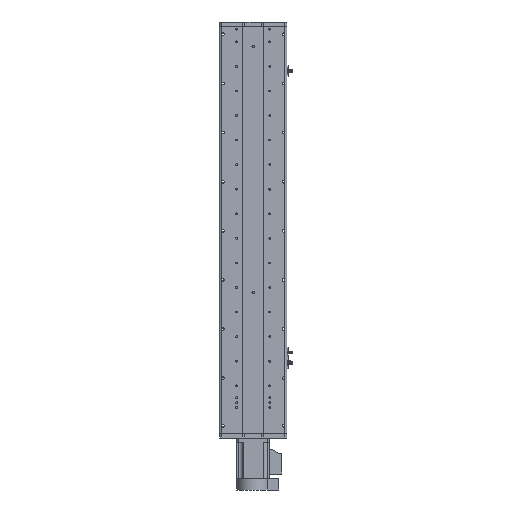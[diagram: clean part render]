
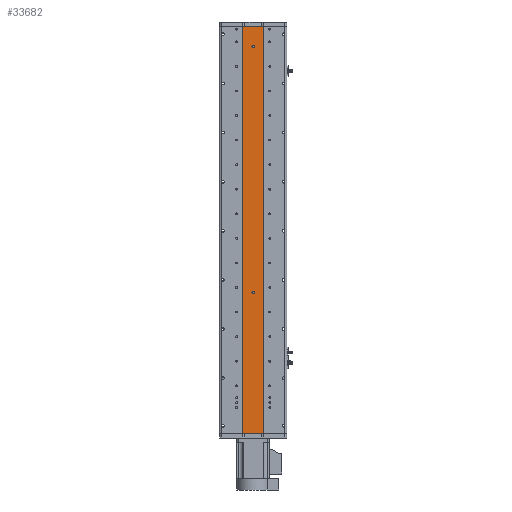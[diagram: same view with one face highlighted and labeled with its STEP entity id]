
A CAD part, front view. The second image highlights one B-rep face of the part: STEP entity #33682.
In plain terms, the highlighted planar face has unit normal (0, -1, 0).
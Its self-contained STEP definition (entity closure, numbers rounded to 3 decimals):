
#184 = CARTESIAN_POINT ( 'NONE',  ( -25., 1., 498. ) ) ;
#1045 = CARTESIAN_POINT ( 'NONE',  ( 25., 1., 498. ) ) ;
#1067 = ORIENTED_EDGE ( 'NONE', *, *, #21082, .F. ) ;
#1911 = VERTEX_POINT ( 'NONE', #25260 ) ;
#1976 = AXIS2_PLACEMENT_3D ( 'NONE', #17639, #39008, #20683 ) ;
#2047 = PLANE ( 'NONE',  #18568 ) ;
#2067 = VECTOR ( 'NONE', #24648, 1000. ) ;
#4239 = VERTEX_POINT ( 'NONE', #17119 ) ;
#4313 = EDGE_CURVE ( 'NONE', #1911, #13286, #5124, .T. ) ;
#4326 = DIRECTION ( 'NONE',  ( 0., 0., -1. ) ) ;
#5124 = CIRCLE ( 'NONE', #1976, 3. ) ;
#6332 = ORIENTED_EDGE ( 'NONE', *, *, #7380, .F. ) ;
#6644 = FACE_OUTER_BOUND ( 'NONE', #28078, .T. ) ;
#7283 = EDGE_LOOP ( 'NONE', ( #1067, #6332 ) ) ;
#7380 = EDGE_CURVE ( 'NONE', #25583, #4239, #15480, .T. ) ;
#7727 = CARTESIAN_POINT ( 'NONE',  ( 0., 1., -152. ) ) ;
#8055 = CARTESIAN_POINT ( 'NONE',  ( 25., 1., 498. ) ) ;
#8092 = LINE ( 'NONE', #33711, #23407 ) ;
#8183 = DIRECTION ( 'NONE',  ( 0., 1., 0. ) ) ;
#8955 = VERTEX_POINT ( 'NONE', #21980 ) ;
#9056 = ORIENTED_EDGE ( 'NONE', *, *, #33904, .T. ) ;
#10452 = VECTOR ( 'NONE', #31656, 1000. ) ;
#10824 = DIRECTION ( 'NONE',  ( 0., 0., -1. ) ) ;
#11270 = VECTOR ( 'NONE', #4326, 1000. ) ;
#11420 = LINE ( 'NONE', #1045, #10452 ) ;
#11720 = EDGE_CURVE ( 'NONE', #36293, #8955, #12238, .T. ) ;
#11827 = VERTEX_POINT ( 'NONE', #29806 ) ;
#12238 = LINE ( 'NONE', #25707, #11270 ) ;
#12448 = CIRCLE ( 'NONE', #27470, 3. ) ;
#12994 = CARTESIAN_POINT ( 'NONE',  ( 0., 1., 448. ) ) ;
#13286 = VERTEX_POINT ( 'NONE', #19280 ) ;
#15480 = CIRCLE ( 'NONE', #25396, 3. ) ;
#15725 = CARTESIAN_POINT ( 'NONE',  ( 0., 1., 448. ) ) ;
#16088 = DIRECTION ( 'NONE',  ( 0., 0., -1. ) ) ;
#17119 = CARTESIAN_POINT ( 'NONE',  ( 0., 1., 445. ) ) ;
#17639 = CARTESIAN_POINT ( 'NONE',  ( 0., 1., -152. ) ) ;
#17867 = VERTEX_POINT ( 'NONE', #28061 ) ;
#18354 = DIRECTION ( 'NONE',  ( 1., 0., 0. ) ) ;
#18568 = AXIS2_PLACEMENT_3D ( 'NONE', #8055, #8183, #29564 ) ;
#18782 = DIRECTION ( 'NONE',  ( 0., 0., -1. ) ) ;
#19280 = CARTESIAN_POINT ( 'NONE',  ( 0., 1., -155. ) ) ;
#20424 = EDGE_LOOP ( 'NONE', ( #30252, #26210 ) ) ;
#20683 = DIRECTION ( 'NONE',  ( 0., 0., -1. ) ) ;
#21082 = EDGE_CURVE ( 'NONE', #4239, #25583, #12448, .T. ) ;
#21980 = CARTESIAN_POINT ( 'NONE',  ( 25., 1., -498. ) ) ;
#23407 = VECTOR ( 'NONE', #18354, 1000. ) ;
#24648 = DIRECTION ( 'NONE',  ( 0., 0., -1. ) ) ;
#25260 = CARTESIAN_POINT ( 'NONE',  ( 0., 1., -149. ) ) ;
#25286 = CIRCLE ( 'NONE', #31397, 3. ) ;
#25396 = AXIS2_PLACEMENT_3D ( 'NONE', #12994, #34397, #16088 ) ;
#25583 = VERTEX_POINT ( 'NONE', #34577 ) ;
#25707 = CARTESIAN_POINT ( 'NONE',  ( 25., 1., 498. ) ) ;
#26210 = ORIENTED_EDGE ( 'NONE', *, *, #4313, .F. ) ;
#27470 = AXIS2_PLACEMENT_3D ( 'NONE', #15725, #37095, #18782 ) ;
#27618 = ORIENTED_EDGE ( 'NONE', *, *, #28911, .F. ) ;
#28061 = CARTESIAN_POINT ( 'NONE',  ( -25., 1., 498. ) ) ;
#28078 = EDGE_LOOP ( 'NONE', ( #9056, #34237, #27618, #29135 ) ) ;
#28850 = CARTESIAN_POINT ( 'NONE',  ( 25., 1., 498. ) ) ;
#28911 = EDGE_CURVE ( 'NONE', #17867, #36293, #11420, .T. ) ;
#29135 = ORIENTED_EDGE ( 'NONE', *, *, #31492, .T. ) ;
#29140 = DIRECTION ( 'NONE',  ( 0., -1., 0. ) ) ;
#29564 = DIRECTION ( 'NONE',  ( 0., 0., 1. ) ) ;
#29806 = CARTESIAN_POINT ( 'NONE',  ( -25., 1., -498. ) ) ;
#30252 = ORIENTED_EDGE ( 'NONE', *, *, #34199, .F. ) ;
#31086 = FACE_BOUND ( 'NONE', #7283, .T. ) ;
#31397 = AXIS2_PLACEMENT_3D ( 'NONE', #7727, #29140, #10824 ) ;
#31492 = EDGE_CURVE ( 'NONE', #17867, #11827, #33628, .T. ) ;
#31656 = DIRECTION ( 'NONE',  ( 1., 0., 0. ) ) ;
#33628 = LINE ( 'NONE', #184, #2067 ) ;
#33682 = ADVANCED_FACE ( 'NONE', ( #31086, #39209, #6644 ), #2047, .F. ) ;
#33711 = CARTESIAN_POINT ( 'NONE',  ( 25., 1., -498. ) ) ;
#33904 = EDGE_CURVE ( 'NONE', #11827, #8955, #8092, .T. ) ;
#34199 = EDGE_CURVE ( 'NONE', #13286, #1911, #25286, .T. ) ;
#34237 = ORIENTED_EDGE ( 'NONE', *, *, #11720, .F. ) ;
#34397 = DIRECTION ( 'NONE',  ( 0., -1., 0. ) ) ;
#34577 = CARTESIAN_POINT ( 'NONE',  ( 0., 1., 451. ) ) ;
#36293 = VERTEX_POINT ( 'NONE', #28850 ) ;
#37095 = DIRECTION ( 'NONE',  ( 0., -1., 0. ) ) ;
#39008 = DIRECTION ( 'NONE',  ( 0., -1., 0. ) ) ;
#39209 = FACE_BOUND ( 'NONE', #20424, .T. ) ;
